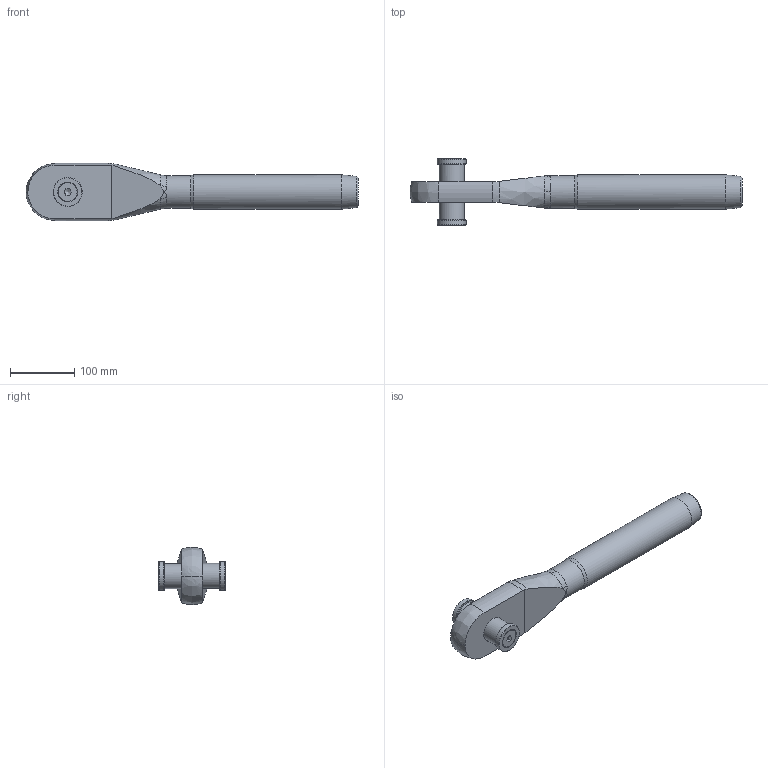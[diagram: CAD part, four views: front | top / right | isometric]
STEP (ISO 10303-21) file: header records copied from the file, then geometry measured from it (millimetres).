
FILE_DESCRIPTION(/* description */ (''),/* implementation_level */ '2;1');
FILE_NAME(/* name */ 'MCC 28_1,4418',/* time_stamp */ '2023-05-23T15:40:37+02:00',/* author */ (''),/* organization */ (''),/* preprocessor_version */ 'ST-DEVELOPER v16.5',/* originating_system */ 'Rhino 7.22',/* authorisation */ '');
FILE_SCHEMA (('CONFIG_CONTROL_DESIGN'));
Length unit declared in the file: millimetre
Products named in the file (1): Document
Bounding box: 515.5 x 102.59 x 88.9 mm (x, y, z)
Volume: 1297993.7 mm3; surface area: 128512.1 mm2
Topology: 6 solids, 6 shells, 74 faces, 203 edges, 135 vertices
Faces by surface type: bspline 31, plane 27, cylinder 16
Full cylindrical faces by diameter (mm): 13.835 x2, 16 x2, 17 x2, 29.01 x2, 39 x1, 41 x1, 45 x2, 50.8 x1, 53.4 x1
Entity records: 3245 total; most frequent: CARTESIAN_POINT 1990, ORIENTED_EDGE 386, EDGE_CURVE 193, VERTEX_POINT 135, EDGE_LOOP 84, ADVANCED_FACE 74, FACE_OUTER_BOUND 74, B_SPLINE_CURVE_WITH_KNOTS 64
